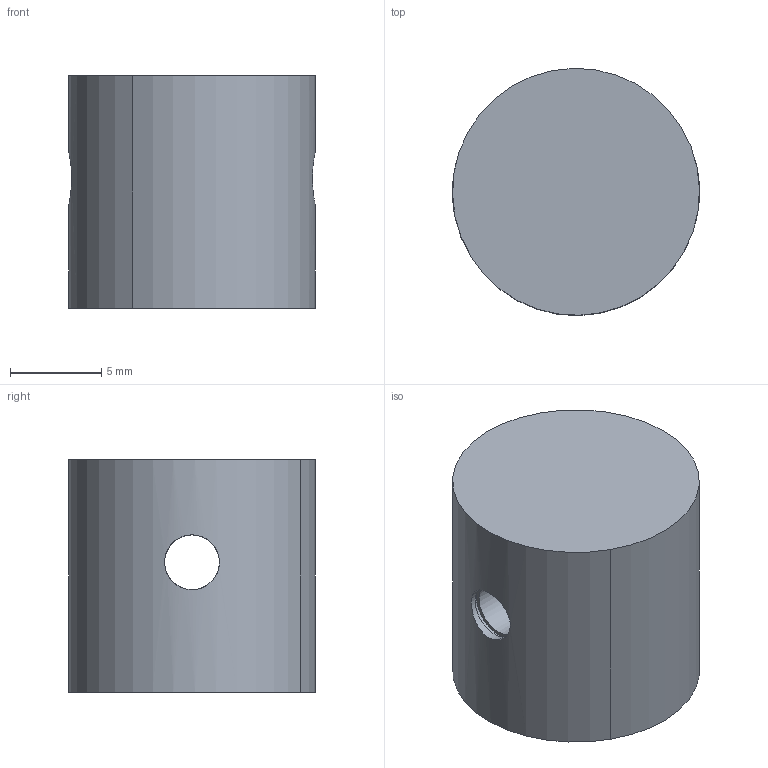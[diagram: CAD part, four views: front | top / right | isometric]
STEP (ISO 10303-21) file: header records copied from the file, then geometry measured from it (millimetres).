
FILE_DESCRIPTION(('CATIA V5 STEP'),'2;1');
FILE_NAME('C:\CADPool\catdb\Motor\214extra\Kolben.stp','2005-10-28T08:28:01+00:00',('none'),('none'),'CATIA Version 5','CATIA V5 STEP AP214','none');
FILE_SCHEMA(('AUTOMOTIVE_DESIGN { 1 0 10303 214 1 1 1 1 }'));
Length unit declared in the file: millimetre
Products named in the file (1): Kolben
Bounding box: 13.5 x 13.5 x 12.7 mm (x, y, z)
Volume: 946.6 mm3; surface area: 1197.2 mm2
Topology: 1 solids, 1 shells, 30 faces, 72 edges, 48 vertices
Faces by surface type: cylinder 18, plane 12
Entity records: 882 total; most frequent: CARTESIAN_POINT 211, ORIENTED_EDGE 144, DIRECTION 100, EDGE_CURVE 72, AXIS2_PLACEMENT_3D 55, VERTEX_POINT 48, EDGE_LOOP 38, CIRCLE 36
